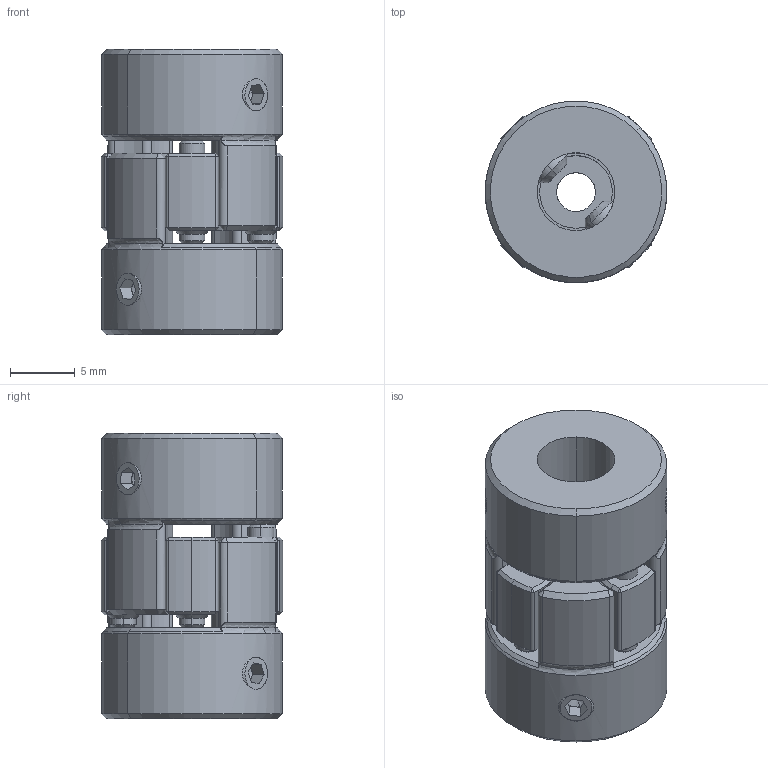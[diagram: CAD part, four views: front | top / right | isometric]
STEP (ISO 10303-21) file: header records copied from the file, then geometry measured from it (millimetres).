
FILE_DESCRIPTION (( 'STEP AP203' ), '1' );
FILE_NAME ('LF-D-D14L22-3-6.STEP', '2021-10-26T05:38:09', ( '' ), ( '' ), 'SwSTEP 2.0', 'SolidWorks 2018', '' );
FILE_SCHEMA (( 'CONFIG_CONTROL_DESIGN' ));
Length unit declared in the file: millimetre
Products named in the file (1): LF-D-D14L22-3-6
Bounding box: 14 x 14 x 22 mm (x, y, z)
Volume: 2719.3 mm3; surface area: 2155.3 mm2
Topology: 1 solids, 1 shells, 353 faces, 887 edges, 512 vertices
Faces by surface type: cone 164, cylinder 115, plane 66, torus 8
Entity records: 10865 total; most frequent: CARTESIAN_POINT 2250, DIRECTION 1939, ORIENTED_EDGE 1726, EDGE_CURVE 863, AXIS2_PLACEMENT_3D 780, VERTEX_POINT 512, CIRCLE 426, EDGE_LOOP 383
